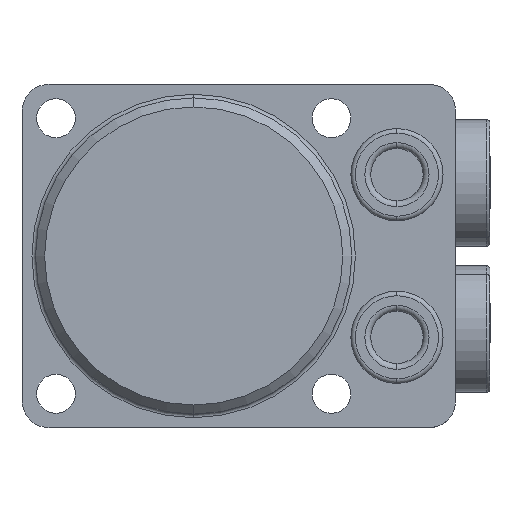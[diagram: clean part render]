
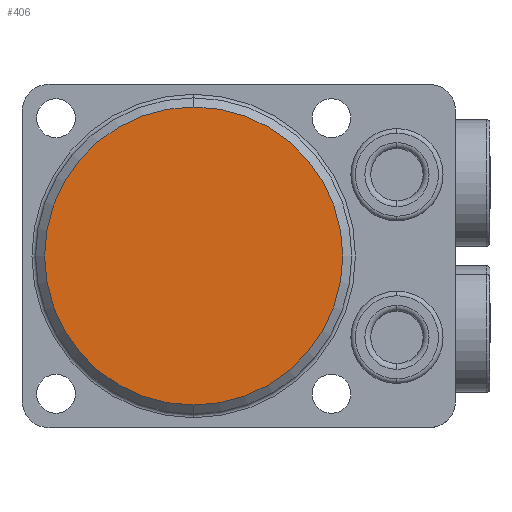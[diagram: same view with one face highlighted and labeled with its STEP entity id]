
A CAD part, front view. The second image highlights one B-rep face of the part: STEP entity #406.
In plain terms, the highlighted planar face has unit normal (0, -1, 0).
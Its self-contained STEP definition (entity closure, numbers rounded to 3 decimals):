
#243=PLANE('',#3128);
#406=ADVANCED_FACE('',(#650),#243,.F.);
#650=FACE_OUTER_BOUND('',#828,.T.);
#828=EDGE_LOOP('',(#1412,#1413));
#1049=CIRCLE('',#3092,16.5);
#1071=CIRCLE('',#3127,16.5);
#1412=ORIENTED_EDGE('',*,*,#2422,.T.);
#1413=ORIENTED_EDGE('',*,*,#2364,.T.);
#2084=VERTEX_POINT('',#4616);
#2085=VERTEX_POINT('',#4617);
#2364=EDGE_CURVE('',#2084,#2085,#1049,.T.);
#2422=EDGE_CURVE('',#2085,#2084,#1071,.T.);
#3092=AXIS2_PLACEMENT_3D('',#4615,#3625,#3626);
#3127=AXIS2_PLACEMENT_3D('',#4749,#3726,#3727);
#3128=AXIS2_PLACEMENT_3D('',#4750,#3728,#3729);
#3625=DIRECTION('',(0.,-1.,0.));
#3626=DIRECTION('',(0.,0.,1.));
#3726=DIRECTION('',(0.,-1.,0.));
#3727=DIRECTION('',(0.,0.,1.));
#3728=DIRECTION('',(0.,1.,0.));
#3729=DIRECTION('',(0.,0.,1.));
#4615=CARTESIAN_POINT('',(0.,0.,0.));
#4616=CARTESIAN_POINT('',(0.,0.,-16.5));
#4617=CARTESIAN_POINT('',(0.,0.,16.5));
#4749=CARTESIAN_POINT('',(0.,0.,0.));
#4750=CARTESIAN_POINT('',(-19.,0.,19.));
